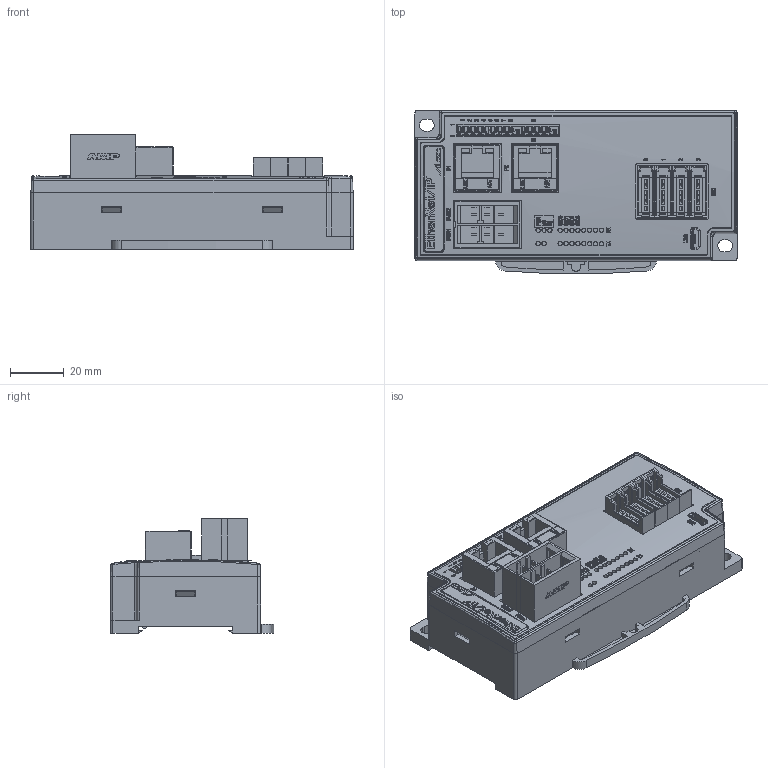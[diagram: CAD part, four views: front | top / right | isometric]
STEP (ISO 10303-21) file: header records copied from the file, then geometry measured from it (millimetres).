
FILE_DESCRIPTION((''),'2;1');
FILE_NAME('EIES','2026-05-11T15:45:54',('gijyu181'),(''),'CREO PARAMETRIC BY PTC INC, 2018050','CREO PARAMETRIC BY PTC INC, 2018050','');
FILE_SCHEMA(('CONFIG_CONTROL_DESIGN','SHAPE_APPEARANCE_LAYERS_GROUPS'));
Products named in the file (1): EIES
Bounding box: 120 x 60.87 x 42.6 mm (x, y, z)
Volume: 154728.6 mm3; surface area: 61165.3 mm2
Topology: 4 solids, 17 shells, 7027 faces, 19890 edges, 13187 vertices
Faces by surface type: plane 5394, extrusion 970, cylinder 529, bspline 69, cone 41, torus 20, sphere 4
Entity records: 294527 total; most frequent: CARTESIAN_POINT 68642, ORIENTED_EDGE 39780, DIRECTION 31508, EDGE_CURVE 19890, VECTOR 17220, LINE 16250, VERTEX_POINT 13187, EDGE_LOOP 7811
